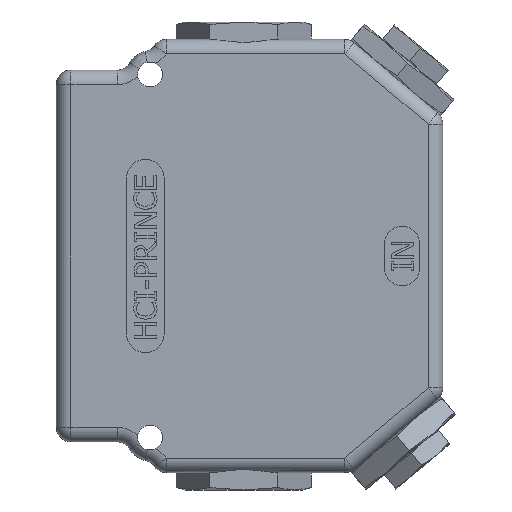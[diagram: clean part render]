
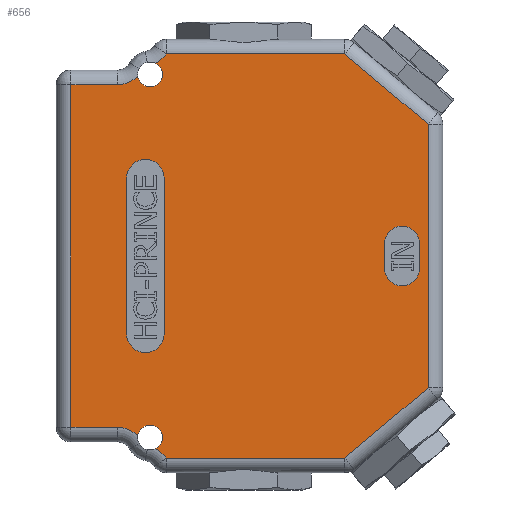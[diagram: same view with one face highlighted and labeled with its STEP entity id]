
A CAD part, left-side view. The second image highlights one B-rep face of the part: STEP entity #656.
In plain terms, the highlighted planar face has unit normal (-1, 0, 0).
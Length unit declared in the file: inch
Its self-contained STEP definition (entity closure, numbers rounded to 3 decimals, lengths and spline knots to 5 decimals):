
#125=CARTESIAN_POINT('',(-0.875,0.94252,-4.33938));
#126=VERTEX_POINT('',#125);
#140=CARTESIAN_POINT('',(-0.875,1.13128,-4.20204));
#141=VERTEX_POINT('',#140);
#142=CARTESIAN_POINT('',(-0.875,1.,-4.22));
#143=DIRECTION('',(1.0,0.0,0.0));
#144=DIRECTION('',(0.0,-1.0,0.0));
#145=AXIS2_PLACEMENT_3D('',#142,#143,#144);
#146=CIRCLE('',#145,0.1325);
#147=EDGE_CURVE('',#141,#126,#146,.T.);
#225=CARTESIAN_POINT('',(-0.875,0.94252,-0.22562));
#226=VERTEX_POINT('',#225);
#247=CARTESIAN_POINT('',(-0.875,1.13128,-0.36296));
#248=VERTEX_POINT('',#247);
#260=CARTESIAN_POINT('',(-0.875,1.0,-0.345));
#261=DIRECTION('',(1.0,0.0,0.0));
#262=DIRECTION('',(0.0,-1.0,0.0));
#263=AXIS2_PLACEMENT_3D('',#260,#261,#262);
#264=CIRCLE('',#263,0.1325);
#265=EDGE_CURVE('',#226,#248,#264,.T.);
#363=CARTESIAN_POINT('',(-0.875,1.35168,-4.11088));
#364=VERTEX_POINT('',#363);
#365=CARTESIAN_POINT('',(-0.875,1.35168,-4.42288));
#366=DIRECTION('',(-1.0,0.0,0.0));
#367=DIRECTION('',(0.0,-0.5,0.866));
#368=AXIS2_PLACEMENT_3D('',#365,#366,#367);
#369=CIRCLE('',#368,0.312);
#370=EDGE_CURVE('',#141,#364,#369,.T.);
#487=CARTESIAN_POINT('',(-0.875,0.01154,-2.2825));
#488=DIRECTION('',(1.0,0.0,0.0));
#489=DIRECTION('',(0.0,0.0,-1.0));
#490=AXIS2_PLACEMENT_3D('',#487,#488,#489);
#491=PLANE('',#490);
#492=ORIENTED_EDGE('',*,*,#147,.T.);
#493=CARTESIAN_POINT('',(-0.875,0.8286,-4.439));
#494=VERTEX_POINT('',#493);
#495=CARTESIAN_POINT('',(-0.875,1.08482,-4.61704));
#496=DIRECTION('',(-1.0,0.0,0.0));
#497=DIRECTION('',(0.0,-0.554,0.833));
#498=AXIS2_PLACEMENT_3D('',#495,#496,#497);
#499=CIRCLE('',#498,0.312);
#500=EDGE_CURVE('',#494,#126,#499,.T.);
#501=ORIENTED_EDGE('',*,*,#500,.F.);
#502=CARTESIAN_POINT('',(-0.875,-1.0766,-4.439));
#503=VERTEX_POINT('',#502);
#504=CARTESIAN_POINT('',(-0.875,-1.0766,-4.439));
#505=DIRECTION('',(0.0,1.0,0.0));
#506=VECTOR('',#505,1.9052);
#507=LINE('',#504,#506);
#508=EDGE_CURVE('',#503,#494,#507,.T.);
#509=ORIENTED_EDGE('',*,*,#508,.F.);
#510=CARTESIAN_POINT('',(-0.875,-1.969,-3.69019));
#511=VERTEX_POINT('',#510);
#512=CARTESIAN_POINT('',(-0.875,-1.969,-3.69019));
#513=DIRECTION('',(0.0,0.766,-0.643));
#514=VECTOR('',#513,1.16495);
#515=LINE('',#512,#514);
#516=EDGE_CURVE('',#511,#503,#515,.T.);
#517=ORIENTED_EDGE('',*,*,#516,.F.);
#518=CARTESIAN_POINT('',(-0.875,-1.969,-0.87481));
#519=VERTEX_POINT('',#518);
#520=CARTESIAN_POINT('',(-0.875,-1.969,-0.87481));
#521=DIRECTION('',(0.0,0.0,-1.0));
#522=VECTOR('',#521,2.81538);
#523=LINE('',#520,#522);
#524=EDGE_CURVE('',#519,#511,#523,.T.);
#525=ORIENTED_EDGE('',*,*,#524,.F.);
#526=CARTESIAN_POINT('',(-0.875,-1.0766,-0.126));
#527=VERTEX_POINT('',#526);
#528=CARTESIAN_POINT('',(-0.875,-1.0766,-0.126));
#529=DIRECTION('',(0.0,-0.766,-0.643));
#530=VECTOR('',#529,1.16495);
#531=LINE('',#528,#530);
#532=EDGE_CURVE('',#527,#519,#531,.T.);
#533=ORIENTED_EDGE('',*,*,#532,.F.);
#534=CARTESIAN_POINT('',(-0.875,0.8286,-0.126));
#535=VERTEX_POINT('',#534);
#536=CARTESIAN_POINT('',(-0.875,0.8286,-0.126));
#537=DIRECTION('',(0.0,-1.0,0.0));
#538=VECTOR('',#537,1.9052);
#539=LINE('',#536,#538);
#540=EDGE_CURVE('',#535,#527,#539,.T.);
#541=ORIENTED_EDGE('',*,*,#540,.F.);
#542=CARTESIAN_POINT('',(-0.875,1.08482,0.05204));
#543=DIRECTION('',(-1.0,0.0,0.0));
#544=DIRECTION('',(0.0,-0.554,-0.833));
#545=AXIS2_PLACEMENT_3D('',#542,#543,#544);
#546=CIRCLE('',#545,0.312);
#547=EDGE_CURVE('',#226,#535,#546,.T.);
#548=ORIENTED_EDGE('',*,*,#547,.F.);
#549=ORIENTED_EDGE('',*,*,#265,.T.);
#550=CARTESIAN_POINT('',(-0.875,1.35168,-0.45413));
#551=VERTEX_POINT('',#550);
#552=CARTESIAN_POINT('',(-0.875,1.35168,-0.14213));
#553=DIRECTION('',(-1.0,0.0,0.0));
#554=DIRECTION('',(0.0,-0.5,-0.866));
#555=AXIS2_PLACEMENT_3D('',#552,#553,#554);
#556=CIRCLE('',#555,0.312);
#557=EDGE_CURVE('',#551,#248,#556,.T.);
#558=ORIENTED_EDGE('',*,*,#557,.F.);
#559=CARTESIAN_POINT('',(-0.875,1.844,-0.45413));
#560=VERTEX_POINT('',#559);
#561=CARTESIAN_POINT('',(-0.875,1.844,-0.45413));
#562=DIRECTION('',(0.0,-1.0,0.0));
#563=VECTOR('',#562,0.49232);
#564=LINE('',#561,#563);
#565=EDGE_CURVE('',#560,#551,#564,.T.);
#566=ORIENTED_EDGE('',*,*,#565,.F.);
#567=CARTESIAN_POINT('',(-0.875,1.844,-4.11088));
#568=VERTEX_POINT('',#567);
#569=CARTESIAN_POINT('',(-0.875,1.844,-4.11088));
#570=DIRECTION('',(0.0,0.0,1.0));
#571=VECTOR('',#570,3.65675);
#572=LINE('',#569,#571);
#573=EDGE_CURVE('',#568,#560,#572,.T.);
#574=ORIENTED_EDGE('',*,*,#573,.F.);
#575=CARTESIAN_POINT('',(-0.875,1.35168,-4.11088));
#576=DIRECTION('',(0.0,1.0,0.0));
#577=VECTOR('',#576,0.49232);
#578=LINE('',#575,#577);
#579=EDGE_CURVE('',#364,#568,#578,.T.);
#580=ORIENTED_EDGE('',*,*,#579,.F.);
#581=ORIENTED_EDGE('',*,*,#370,.F.);
#582=EDGE_LOOP('',(#492,#501,#509,#517,#525,#533,#541,#548,#549,#558,#566,#574,#580,#581));
#583=FACE_OUTER_BOUND('',#582,.T.);
#584=CARTESIAN_POINT('',(-0.875,-1.875,-2.1475));
#585=VERTEX_POINT('',#584);
#586=CARTESIAN_POINT('',(-0.875,-1.875,-2.4175));
#587=VERTEX_POINT('',#586);
#588=CARTESIAN_POINT('',(-0.875,-1.875,-2.1475));
#589=DIRECTION('',(0.0,0.0,-1.0));
#590=VECTOR('',#589,0.27);
#591=LINE('',#588,#590);
#592=EDGE_CURVE('',#585,#587,#591,.T.);
#593=ORIENTED_EDGE('',*,*,#592,.T.);
#594=CARTESIAN_POINT('',(-0.875,-1.505,-2.4175));
#595=VERTEX_POINT('',#594);
#596=CARTESIAN_POINT('',(-0.875,-1.69,-2.4175));
#597=DIRECTION('',(1.0,0.0,0.0));
#598=DIRECTION('',(0.0,-1.0,0.0));
#599=AXIS2_PLACEMENT_3D('',#596,#597,#598);
#600=CIRCLE('',#599,0.185);
#601=EDGE_CURVE('',#587,#595,#600,.T.);
#602=ORIENTED_EDGE('',*,*,#601,.T.);
#603=CARTESIAN_POINT('',(-0.875,-1.505,-2.1475));
#604=VERTEX_POINT('',#603);
#605=CARTESIAN_POINT('',(-0.875,-1.505,-2.4175));
#606=DIRECTION('',(0.0,0.0,1.0));
#607=VECTOR('',#606,0.27);
#608=LINE('',#605,#607);
#609=EDGE_CURVE('',#595,#604,#608,.T.);
#610=ORIENTED_EDGE('',*,*,#609,.T.);
#611=CARTESIAN_POINT('',(-0.875,-1.69,-2.1475));
#612=DIRECTION('',(1.0,0.0,0.0));
#613=DIRECTION('',(0.0,1.0,0.0));
#614=AXIS2_PLACEMENT_3D('',#611,#612,#613);
#615=CIRCLE('',#614,0.185);
#616=EDGE_CURVE('',#604,#585,#615,.T.);
#617=ORIENTED_EDGE('',*,*,#616,.T.);
#618=EDGE_LOOP('',(#593,#602,#610,#617));
#619=FACE_BOUND('',#618,.T.);
#620=CARTESIAN_POINT('',(-0.875,1.25,-3.1135));
#621=VERTEX_POINT('',#620);
#622=CARTESIAN_POINT('',(-0.875,1.25,-1.4515));
#623=VERTEX_POINT('',#622);
#624=CARTESIAN_POINT('',(-0.875,1.25,-3.1135));
#625=DIRECTION('',(0.0,0.0,1.0));
#626=VECTOR('',#625,1.662);
#627=LINE('',#624,#626);
#628=EDGE_CURVE('',#621,#623,#627,.T.);
#629=ORIENTED_EDGE('',*,*,#628,.T.);
#630=CARTESIAN_POINT('',(-0.875,0.85,-1.4515));
#631=VERTEX_POINT('',#630);
#632=CARTESIAN_POINT('',(-0.875,1.05,-1.4515));
#633=DIRECTION('',(1.0,0.0,0.0));
#634=DIRECTION('',(0.0,1.0,0.0));
#635=AXIS2_PLACEMENT_3D('',#632,#633,#634);
#636=CIRCLE('',#635,0.2);
#637=EDGE_CURVE('',#623,#631,#636,.T.);
#638=ORIENTED_EDGE('',*,*,#637,.T.);
#639=CARTESIAN_POINT('',(-0.875,0.85,-3.1135));
#640=VERTEX_POINT('',#639);
#641=CARTESIAN_POINT('',(-0.875,0.85,-1.4515));
#642=DIRECTION('',(0.0,0.0,-1.0));
#643=VECTOR('',#642,1.662);
#644=LINE('',#641,#643);
#645=EDGE_CURVE('',#631,#640,#644,.T.);
#646=ORIENTED_EDGE('',*,*,#645,.T.);
#647=CARTESIAN_POINT('',(-0.875,1.05,-3.1135));
#648=DIRECTION('',(1.0,0.0,0.0));
#649=DIRECTION('',(0.0,-1.0,0.0));
#650=AXIS2_PLACEMENT_3D('',#647,#648,#649);
#651=CIRCLE('',#650,0.2);
#652=EDGE_CURVE('',#640,#621,#651,.T.);
#653=ORIENTED_EDGE('',*,*,#652,.T.);
#654=EDGE_LOOP('',(#629,#638,#646,#653));
#655=FACE_BOUND('',#654,.T.);
#656=ADVANCED_FACE('',(#583,#619,#655),#491,.F.);
